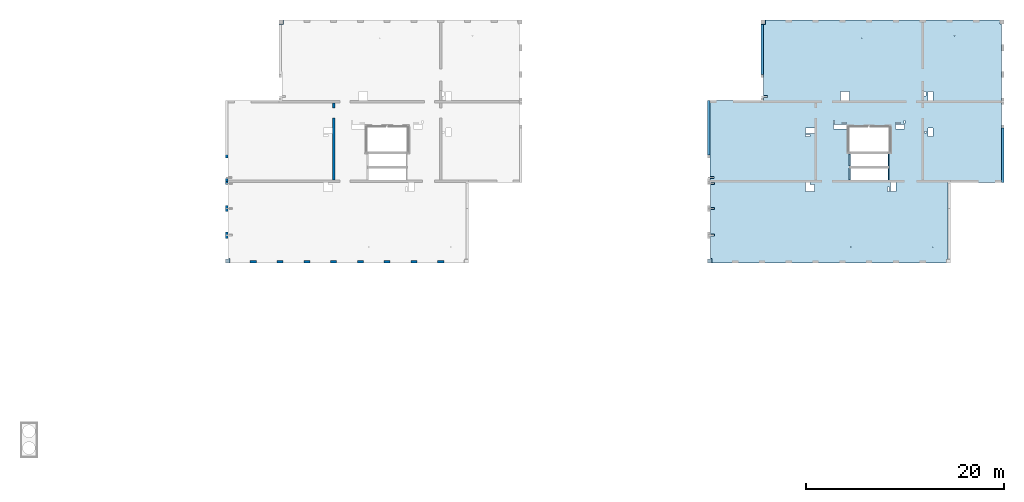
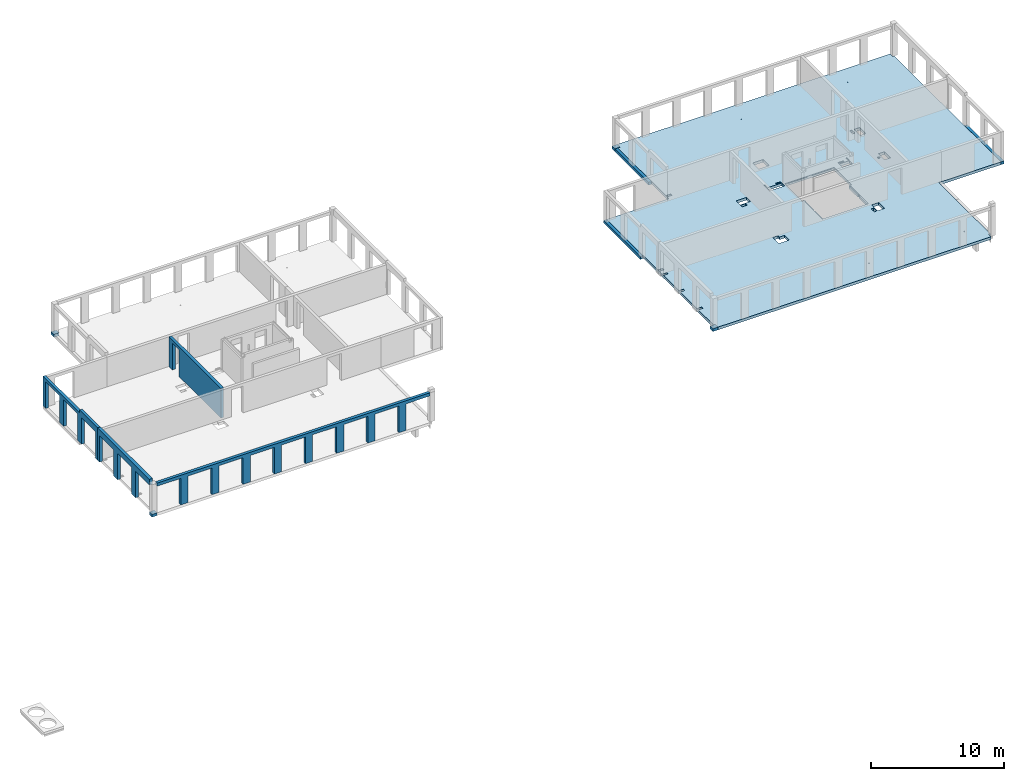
# One storey, part 3 of 12: 8 slabs, 4 walls, 50 openings.
"""IFC2X3 building model written with IfcOpenShell, lengths in millimetres."""

import ifcopenshell
import ifcopenshell.guid

model = None  # the IFC model being written
_history = None  # IfcOwnerHistory: only IFC2X3 demands one
_inside = {}  # id of a spatial element -> (the spatial element, [elements in it])
_under = {}  # id of a project, library or spatial element -> (it, [spatial elements below it])
_declared = {}  # id of a project -> (the project, [libraries it declares])
_typed = {}  # id of a type object -> (the type object, [elements of that type])
_made_of = {}  # id of a material, layer set ... -> (it, [elements and type objects made of it])


def new_model(schema):
    """Start an empty IFC model of exactly this schema.

    Asked for "IFC4X3", IfcOpenShell would pick the latest addendum, in which some entities
    have other attributes; the version numbers below select the first issue.
    IFC2X3 requires an IfcOwnerHistory on every rooted entity: one is made here for all.
    """
    global model, _history
    if schema == "IFC4X3":
        model = ifcopenshell.file(schema_version=(4, 3, 0, 0))
    else:
        model = ifcopenshell.file(schema=schema)
    _inside.clear()
    _under.clear()
    _declared.clear()
    _typed.clear()
    _made_of.clear()
    _history = None
    if model.schema == "IFC2X3":
        org = make("IfcOrganization", Name="unknown")
        user = make(
            "IfcPersonAndOrganization",
            ThePerson=make("IfcPerson", FamilyName="unknown"),
            TheOrganization=org,
        )
        app = make(
            "IfcApplication",
            ApplicationDeveloper=org,
            Version="unknown",
            ApplicationFullName="unknown",
            ApplicationIdentifier="unknown",
        )
        _history = make(
            "IfcOwnerHistory",
            OwningUser=user,
            OwningApplication=app,
            ChangeAction="ADDED",
            CreationDate=0,
        )
    return model


def make(cls, **values):
    """One entity of the class cls with the attributes given. An attribute that is None is left unset."""
    return model.create_entity(
        cls, **{name: value for name, value in values.items() if value is not None}
    )


def entity(cls, *values):
    """Any entity or typed value of the class cls, its attributes in the order of the schema. None: left unset."""
    e = model.create_entity(cls)
    for i, value in enumerate(values):
        if value is not None:
            e[i] = value
    return e


def rooted(cls, **values):
    """An entity with a GlobalId (a new one), such as an element, a storey or a relation."""
    return make(cls, GlobalId=ifcopenshell.guid.new(), OwnerHistory=_history, **values)


def si_unit(unit_type, name, prefix=None):
    """IfcSIUnit, for example si_unit("LENGTHUNIT", "METRE", prefix="MILLI")."""
    return make("IfcSIUnit", UnitType=unit_type, Prefix=prefix, Name=name)


def converted_unit(unit_type, name, factor, base, dimensions=None, offset=None):
    """IfcConversionBasedUnit, such as the inch: factor (a typed value) times the base unit."""
    return make(
        "IfcConversionBasedUnit"
        if offset is None
        else "IfcConversionBasedUnitWithOffset",
        ConversionOffset=offset,
        Dimensions=None
        if dimensions is None
        else entity("IfcDimensionalExponents", *dimensions),
        UnitType=unit_type,
        Name=name,
        ConversionFactor=make(
            "IfcMeasureWithUnit", ValueComponent=factor, UnitComponent=base
        ),
    )


def derived_unit(unit_type, elements):
    """IfcDerivedUnit: a product of units, each with its exponent."""
    return make(
        "IfcDerivedUnit",
        Elements=[
            make("IfcDerivedUnitElement", Unit=unit, Exponent=power)
            for unit, power in elements
        ],
        UnitType=unit_type,
    )


def assignment(units):
    """IfcUnitAssignment: the units of a project."""
    return None if units is None else make("IfcUnitAssignment", Units=units)


def point(xyz):
    """IfcCartesianPoint."""
    return None if xyz is None else make("IfcCartesianPoint", Coordinates=xyz)


def direction(xyz):
    """IfcDirection."""
    return None if xyz is None else make("IfcDirection", DirectionRatios=xyz)


def frame(location, z_axis=None, x_axis=None):
    """IfcAxis2Placement3D, a coordinate frame: its origin and axes. An axis left out is left unset."""
    return make(
        "IfcAxis2Placement3D",
        Location=point(location),
        Axis=direction(z_axis),
        RefDirection=direction(x_axis),
    )


def frame_2d(location, x_axis=None):
    """IfcAxis2Placement2D, a coordinate frame in the plane: its origin and x axis."""
    return make(
        "IfcAxis2Placement2D", Location=point(location), RefDirection=direction(x_axis)
    )


def origin():
    """The frame at (0, 0, 0) with its axes left unset."""
    return frame((0.0, 0.0, 0.0))


def origin_2d_with_axis():
    """The frame at (0, 0) in the plane with the x axis (1, 0) written out."""
    return frame_2d((0.0, 0.0), x_axis=(1.0, 0.0))


def place(relative_to, where):
    """IfcLocalPlacement: puts the frame where relative to a parent placement (None: the world)."""
    return make(
        "IfcLocalPlacement", PlacementRelTo=relative_to, RelativePlacement=where
    )


def context(
    kind, dimensions, precision=None, world=None, true_north=None, identifier=None
):
    """IfcGeometricRepresentationContext, for example the 3D "Model" context."""
    return make(
        "IfcGeometricRepresentationContext",
        ContextIdentifier=identifier,
        ContextType=kind,
        CoordinateSpaceDimension=dimensions,
        Precision=precision,
        WorldCoordinateSystem=world,
        TrueNorth=true_north,
    )


def subcontext(parent, identifier, kind, view, scale=None):
    """IfcGeometricRepresentationSubContext, for example "Body" below "Model"."""
    return make(
        "IfcGeometricRepresentationSubContext",
        ContextIdentifier=identifier,
        ContextType=kind,
        ParentContext=parent,
        TargetScale=scale,
        TargetView=view,
    )


def project(units=None, contexts=None):
    """IfcProject with its units and contexts."""
    return rooted(
        "IfcProject",
        Name="project",
        RepresentationContexts=contexts,
        UnitsInContext=assignment(units),
    )


def spatial(cls, under=None, at=None, **own):
    """A site, building, storey or space (cls), placed at a placement, below another one or the project."""
    s = rooted(cls, ObjectPlacement=at, **own)
    if under is not None:
        _under.setdefault(under.id(), (under, []))[1].append(s)
    return s


def polyline(points):
    """IfcPolyline through the points."""
    return make("IfcPolyline", Points=[point(p) for p in points])


def profile(cls, at=None, kind="AREA", **sizes):
    """A parametric profile (cls). Its sizes go by their IFC names, for example OverallWidth=200.0."""
    return make(cls, ProfileType=kind, Position=at, **sizes)


def rectangle(**sizes):
    """IfcRectangleProfileDef."""
    return profile("IfcRectangleProfileDef", **sizes)


def circle(**sizes):
    """IfcCircleProfileDef."""
    return profile("IfcCircleProfileDef", **sizes)


def outline(outer, holes=None, kind="AREA"):
    """IfcArbitraryClosedProfileDef: a profile drawn as a closed curve; with holes, ...WithVoids."""
    if holes is None:
        return make("IfcArbitraryClosedProfileDef", ProfileType=kind, OuterCurve=outer)
    return make(
        "IfcArbitraryProfileDefWithVoids",
        ProfileType=kind,
        OuterCurve=outer,
        InnerCurves=holes,
    )


def extrude(swept, where, along, depth):
    """IfcExtrudedAreaSolid: the profile swept, set in the frame where, extruded along a direction by depth."""
    return make(
        "IfcExtrudedAreaSolid",
        SweptArea=swept,
        Position=where,
        ExtrudedDirection=direction(along),
        Depth=depth,
    )


def shape(context_of_items, identifier, shape_type, items):
    """IfcShapeRepresentation: the items that make up one representation, for example the "Body"."""
    return make(
        "IfcShapeRepresentation",
        ContextOfItems=context_of_items,
        RepresentationIdentifier=identifier,
        RepresentationType=shape_type,
        Items=items,
    )


def material(Name=None, Category=None):
    """IfcMaterial."""
    return make("IfcMaterial", Name=Name, Category=Category)


def layer(
    of_material, thickness, ventilated=None, Name=None, Category=None, Priority=None
):
    """IfcMaterialLayer: one layer of a wall or slab, of a material (None: an air gap)."""
    return make(
        "IfcMaterialLayer",
        Material=of_material,
        LayerThickness=thickness,
        IsVentilated=ventilated,
        Name=Name,
        Category=Category,
        Priority=Priority,
    )


def layer_set(layers, Name=None):
    """IfcMaterialLayerSet."""
    return make("IfcMaterialLayerSet", MaterialLayers=layers, LayerSetName=Name)


def layer_usage(for_layer_set, set_direction, sense, offset, extent=None):
    """IfcMaterialLayerSetUsage: how a layer set lies in its element."""
    return make(
        "IfcMaterialLayerSetUsage",
        ForLayerSet=for_layer_set,
        LayerSetDirection=set_direction,
        DirectionSense=sense,
        OffsetFromReferenceLine=offset,
        ReferenceExtent=extent,
    )


def made_of(thing, what):
    """Note that an element or type object is made of a material, layer set ...; save() writes the relation."""
    if what is not None:
        _made_of.setdefault(what.id(), (what, []))[1].append(thing)
    return thing


def type_object(cls, material=None, **own):
    """A type object (cls), such as IfcWallType, which elements share."""
    return made_of(rooted(cls, **own), material)


def element(
    cls,
    number,
    at=None,
    inside=None,
    cuts=None,
    type_object=None,
    material=None,
    context=None,
    identifier="Body",
    shape_type=None,
    held_by="IfcProductDefinitionShape",
    body=None,
    shapes=None,
    **own,
):
    """One element of the class cls, such as IfcWall. Its Tag is "e" and its number.

    at: its placement. inside: the storey or other place that contains it. cuts: it is an
    opening in that element (IfcRelVoidsElement). A single representation is given by context,
    identifier, shape_type and body (its items); several are given by shapes. held_by: the class
    of the entity that holds the representations. save() writes the other relations.
    """
    e = rooted(cls, Tag="e%d" % number, ObjectPlacement=at, **own)
    if body is not None:
        shapes = [shape(context, identifier, shape_type, body)]
    if shapes is not None:
        e.Representation = make(held_by, Representations=shapes)
    if inside is not None:
        _inside.setdefault(inside.id(), (inside, []))[1].append(e)
    if cuts is not None:
        rooted(
            "IfcRelVoidsElement", RelatingBuildingElement=cuts, RelatedOpeningElement=e
        )
    if type_object is not None:
        _typed.setdefault(type_object.id(), (type_object, []))[1].append(e)
    return made_of(e, material)


def aggregate(whole, parts):
    """IfcRelAggregates: a whole, such as a stair, and the parts it consists of."""
    return rooted("IfcRelAggregates", RelatingObject=whole, RelatedObjects=parts)


def save(model, path):
    """Write the relations noted so far, then the file.

    IfcRelAggregates (storeys below a building ...), IfcRelContainedInSpatialStructure (elements
    in a storey), IfcRelDefinesByType, IfcRelAssociatesMaterial and IfcRelDeclares: one each for
    every whole, place, type object, material and project.
    """
    for whole, parts in _under.values():
        aggregate(whole, parts)
    for where, things in _inside.values():
        rooted(
            "IfcRelContainedInSpatialStructure",
            RelatedElements=things,
            RelatingStructure=where,
        )
    for kind, things in _typed.values():
        rooted("IfcRelDefinesByType", RelatedObjects=things, RelatingType=kind)
    for what, things in _made_of.values():
        rooted("IfcRelAssociatesMaterial", RelatedObjects=things, RelatingMaterial=what)
    for by, libraries in _declared.values():
        rooted("IfcRelDeclares", RelatingContext=by, RelatedDefinitions=libraries)
    model.write(path)


model = new_model("IFC2X3")

# Units and contexts
model_context = context("Model", 3, precision=0.01, world=origin(), true_north=direction((6.12303176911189e-17, 1.0)))
body_context = subcontext(model_context, "Body", "Model", "MODEL_VIEW")
ifc_project = project(units=[si_unit("LENGTHUNIT", "METRE", prefix="MILLI"), si_unit("AREAUNIT", "SQUARE_METRE"), si_unit("VOLUMEUNIT", "CUBIC_METRE"), converted_unit("PLANEANGLEUNIT", "DEGREE", entity("IfcRatioMeasure", 0.0174532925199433), si_unit("PLANEANGLEUNIT", "RADIAN"), dimensions=[0, 0, 0, 0, 0, 0, 0]), si_unit("MASSUNIT", "GRAM", prefix="KILO"), derived_unit("MASSDENSITYUNIT", [(si_unit("MASSUNIT", "GRAM", prefix="KILO"), 1), (si_unit("LENGTHUNIT", "METRE"), -3)]), si_unit("TIMEUNIT", "SECOND"), si_unit("FREQUENCYUNIT", "HERTZ"), si_unit("THERMODYNAMICTEMPERATUREUNIT", "DEGREE_CELSIUS"), derived_unit("THERMALTRANSMITTANCEUNIT", [(si_unit("MASSUNIT", "GRAM", prefix="KILO"), 1), (si_unit("THERMODYNAMICTEMPERATUREUNIT", "KELVIN"), -1), (si_unit("TIMEUNIT", "SECOND"), -3)]), derived_unit("VOLUMETRICFLOWRATEUNIT", [(si_unit("LENGTHUNIT", "METRE"), 3), (si_unit("TIMEUNIT", "SECOND"), -1)]), si_unit("ELECTRICCURRENTUNIT", "AMPERE"), si_unit("ELECTRICVOLTAGEUNIT", "VOLT"), si_unit("POWERUNIT", "WATT"), si_unit("FORCEUNIT", "NEWTON", prefix="KILO"), si_unit("ILLUMINANCEUNIT", "LUX"), si_unit("LUMINOUSFLUXUNIT", "LUMEN"), si_unit("LUMINOUSINTENSITYUNIT", "CANDELA"), derived_unit("USERDEFINED", [(si_unit("MASSUNIT", "GRAM", prefix="KILO"), -1), (si_unit("LENGTHUNIT", "METRE"), -2), (si_unit("TIMEUNIT", "SECOND"), 3), (si_unit("LUMINOUSFLUXUNIT", "LUMEN"), 1)]), derived_unit("LINEARVELOCITYUNIT", [(si_unit("LENGTHUNIT", "METRE"), 1), (si_unit("TIMEUNIT", "SECOND"), -1)]), si_unit("PRESSUREUNIT", "PASCAL"), derived_unit("USERDEFINED", [(si_unit("LENGTHUNIT", "METRE"), -2), (si_unit("MASSUNIT", "GRAM", prefix="KILO"), 1), (si_unit("TIMEUNIT", "SECOND"), -2)])], contexts=[model_context])

# Site, building, storey
site_placement = place(None, origin())
site = spatial("IfcSite", under=ifc_project, at=site_placement, Name="Default", CompositionType="ELEMENT")
building_placement = place(site_placement, origin())
building = spatial("IfcBuilding", under=site, at=building_placement, Name="niet gebruiken", CompositionType="ELEMENT")
storey_placement = place(building_placement, frame((0.0, 0.0, 18540.0)))
storey = spatial("IfcBuildingStorey", under=building, at=storey_placement, Name="06 zesde verdieping", CompositionType="ELEMENT", Elevation=18540.0)

# Slab, openings
ifc_material_1 = material(Name="NLRS_f2_beton ihwg")
ifc_layer_1 = layer(ifc_material_1, 250.0)
ifc_layer_set_1 = layer_set([ifc_layer_1], Name="Floor:NLRS_23.21_FL_beton ihwg d=250_gen")
ifc_layer_usage_1 = layer_usage(ifc_layer_set_1, "AXIS3", "POSITIVE", 0.0)
slab_1_placement = place(storey_placement, frame((75500.0, 28756.0, -340.0)))
slab_1 = element("IfcSlab", 1, at=slab_1_placement, inside=storey, material=ifc_layer_usage_1, Name="Floor:NLRS_23.21_FL_beton ihwg d=250_gen", ObjectType="Floor:NLRS_23.21_FL_beton ihwg d=250_gen", PredefinedType="FLOOR", context=body_context, shape_type="SweptSolid", body=[
    extrude(outline(polyline([(8994.99996701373, 12250.0), (-14665.0, 12250.0), (-14665.0, 11840.0), (-14805.0, 11840.0), (-14805.0, 4060.0), (-14825.0, 4060.0), (-14825.0, -4150.0), (-9425.0, -4150.0), (-9425.0, -11890.0), (-9265.00003298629, -11890.0), (-9265.00003298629, -12250.0), (14395.0, -12250.0), (14395.0, -11820.0), (14535.0, -11820.0), (14535.0, -4060.0), (14555.0, -4060.0), (14555.0, -1350.0), (14825.0, -1350.0), (14825.0, 4150.0), (9155.0, 4150.0), (9155.0, 7060.0), (9175.0, 7060.0), (9175.0, 11820.0), (8994.99996701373, 11820.0), (8994.99996701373, 12250.0)])), frame((14825.0, 12250.0, 250.0), z_axis=(0.0, 0.0, -1.0), x_axis=(-1.0, 0.0, 0.0)), (0.0, 0.0, 1.0), 249.999999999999),
])
opening_1_placement = place(storey_placement, frame((75500.0, 28756.0, -340.0)))
element("IfcOpeningElement", 2, at=opening_1_placement, cuts=slab_1, ObjectType="Opening", context=body_context, shape_type="SweptSolid", body=[
    extrude(circle(Radius=37.5, at=frame_2d((-7875.0, -10650.0), x_axis=(1.0, 0.0))), frame((14825.0, 12250.0, 250.0), z_axis=(0.0, 0.0, -1.0), x_axis=(-1.0, 0.0, 0.0)), (0.0, 0.0, 1.0), 249.999999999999),
])
opening_2_placement = place(storey_placement, frame((75500.0, 28756.0, -340.0)))
element("IfcOpeningElement", 3, at=opening_2_placement, cuts=slab_1, ObjectType="Opening", context=body_context, shape_type="SweptSolid", body=[
    extrude(circle(Radius=37.5, at=frame_2d((-10075.0, 10650.0), x_axis=(1.0, 0.0))), frame((14825.0, 12250.0, 250.0), z_axis=(0.0, 0.0, -1.0), x_axis=(-1.0, 0.0, 0.0)), (0.0, 0.0, 1.0), 249.999999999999),
])
opening_3_placement = place(storey_placement, frame((75500.0, 28756.0, -340.0)))
element("IfcOpeningElement", 4, at=opening_3_placement, cuts=slab_1, ObjectType="Opening", context=body_context, shape_type="SweptSolid", body=[
    extrude(circle(Radius=37.5, at=frame_2d((-725.0, 10400.0), x_axis=(1.0, 0.0))), frame((14825.0, 12250.0, 250.0), z_axis=(0.0, 0.0, -1.0), x_axis=(-1.0, 0.0, 0.0)), (0.0, 0.0, 1.0), 249.999999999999),
])
opening_4_placement = place(storey_placement, frame((75500.0, 28756.0, -340.0)))
element("IfcOpeningElement", 5, at=opening_4_placement, cuts=slab_1, ObjectType="Opening", context=body_context, shape_type="SweptSolid", body=[
    extrude(circle(Radius=37.5, at=frame_2d((375.0, -10650.0), x_axis=(1.0, 0.0))), frame((14825.0, 12250.0, 250.0), z_axis=(0.0, 0.0, -1.0), x_axis=(-1.0, 0.0, 0.0)), (0.0, 0.0, 1.0), 249.999999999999),
])
opening_5_placement = place(slab_1_placement, origin())
element("IfcOpeningElement", 6, at=opening_5_placement, cuts=slab_1, ObjectType="Opening", context=body_context, shape_type="SweptSolid", body=[
    extrude(rectangle(XDim=109.999999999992, YDim=1220.0, at=origin_2d_with_axis()), frame((14344.9999671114, 10380.0, 210.0)), (0.0, 0.0, 1.0), 39.9999999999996),
])
opening_6_placement = place(slab_1_placement, origin())
element("IfcOpeningElement", 7, at=opening_6_placement, cuts=slab_1, ObjectType="Opening", context=body_context, shape_type="SweptSolid", body=[
    extrude(rectangle(XDim=109.999999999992, YDim=1220.0, at=origin_2d_with_axis()), frame((18255.0, 10380.0, 210.0)), (0.0, 0.0, 1.0), 39.9999999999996),
])
opening_7_placement = place(slab_1_placement, origin())
element("IfcOpeningElement", 8, at=opening_7_placement, cuts=slab_1, ObjectType="Opening", context=body_context, shape_type="SweptSolid", body=[
    extrude(rectangle(XDim=109.999999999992, YDim=1220.0, at=origin_2d_with_axis()), frame((18255.0, 8960.0, 210.0)), (0.0, 0.0, 1.0), 39.9999999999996),
])
opening_8_placement = place(slab_1_placement, origin())
element("IfcOpeningElement", 9, at=opening_8_placement, cuts=slab_1, ObjectType="Opening", context=body_context, shape_type="SweptSolid", body=[
    extrude(rectangle(XDim=109.999999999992, YDim=1220.0, at=origin_2d_with_axis()), frame((14344.9997832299, 8960.0, 210.0)), (0.0, 0.0, 1.0), 39.9999999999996),
])
opening_9_placement = place(slab_1_placement, origin())
element("IfcOpeningElement", 10, at=opening_9_placement, cuts=slab_1, ObjectType="Opening", context=body_context, shape_type="SweptSolid", body=[
    extrude(rectangle(XDim=200.000000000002, YDim=400.000000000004, at=origin_2d_with_axis()), frame((490.0, 2800.0, 220.0), z_axis=(0.0, 0.0, 1.0), x_axis=(0.0, -1.0, 0.0)), (0.0, 0.0, 1.0), 29.9999999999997),
])
opening_10_placement = place(slab_1_placement, origin())
element("IfcOpeningElement", 11, at=opening_10_placement, cuts=slab_1, ObjectType="Opening", context=body_context, shape_type="SweptSolid", body=[
    extrude(rectangle(XDim=200.000000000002, YDim=400.000000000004, at=origin_2d_with_axis()), frame((490.0, 5500.0, 220.0), z_axis=(0.0, 0.0, 1.0), x_axis=(0.0, -1.0, 0.0)), (0.0, 0.0, 1.0), 29.9999999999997),
])
opening_11_placement = place(slab_1_placement, origin())
element("IfcOpeningElement", 12, at=opening_11_placement, cuts=slab_1, ObjectType="Opening", context=body_context, shape_type="SweptSolid", body=[
    extrude(rectangle(XDim=200.000000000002, YDim=400.000000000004, at=origin_2d_with_axis()), frame((490.0, 8000.0, 220.0), z_axis=(0.0, 0.0, 1.0), x_axis=(0.0, -1.0, 0.0)), (0.0, 0.0, 1.0), 29.9999999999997),
])
opening_12_placement = place(slab_1_placement, origin())
element("IfcOpeningElement", 13, at=opening_12_placement, cuts=slab_1, ObjectType="Opening", context=body_context, shape_type="SweptSolid", body=[
    extrude(rectangle(XDim=400.000000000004, YDim=200.000000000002, at=origin_2d_with_axis()), frame((470.0, 8630.0, 220.0)), (0.0, 0.0, 1.0), 29.9999999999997),
])
opening_13_placement = place(slab_1_placement, origin())
element("IfcOpeningElement", 14, at=opening_13_placement, cuts=slab_1, ObjectType="Opening", context=body_context, shape_type="SweptSolid", body=[
    extrude(rectangle(XDim=399.999999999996, YDim=199.999999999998, at=origin_2d_with_axis()), frame((5870.0, 16765.0, 220.0)), (0.0, 0.0, 1.0), 29.9999999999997),
])
opening_14_placement = place(slab_1_placement, origin())
element("IfcOpeningElement", 15, at=opening_14_placement, cuts=slab_1, ObjectType="Opening", context=body_context, shape_type="SweptSolid", body=[
    extrude(rectangle(XDim=900.000000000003, YDim=700.000000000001, at=origin_2d_with_axis()), frame((10325.0, 7550.0, 0.0), z_axis=(0.0, 0.0, 1.0), x_axis=(-1.0, 0.0, 0.0)), (0.0, 0.0, 1.0), 249.999999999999),
])
opening_15_placement = place(slab_1_placement, origin())
element("IfcOpeningElement", 16, at=opening_15_placement, cuts=slab_1, ObjectType="Opening", context=body_context, shape_type="SweptSolid", body=[
    extrude(rectangle(XDim=200.000000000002, YDim=450.000000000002, at=origin_2d_with_axis()), frame((10100.0, 8000.0, 0.0), z_axis=(0.0, 0.0, 1.0), x_axis=(0.0, -1.0, 0.0)), (0.0, 0.0, 1.0), 249.999999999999),
])
opening_16_placement = place(slab_1_placement, origin())
element("IfcOpeningElement", 17, at=opening_16_placement, cuts=slab_1, ObjectType="Opening", context=body_context, shape_type="SweptSolid", body=[
    extrude(rectangle(XDim=450.000000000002, YDim=900.000000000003, at=origin_2d_with_axis()), frame((19430.0, 13720.0, 0.0), z_axis=(0.0, 0.0, 1.0), x_axis=(0.0, -1.0, 0.0)), (0.0, 0.0, 1.0), 249.999999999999),
])
opening_17_placement = place(slab_1_placement, origin())
element("IfcOpeningElement", 18, at=opening_17_placement, cuts=slab_1, ObjectType="Opening", context=body_context, shape_type="SweptSolid", body=[
    extrude(rectangle(XDim=900.000000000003, YDim=900.000000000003, at=origin_2d_with_axis()), frame((13885.0, 16850.0, 0.0), z_axis=(0.0, 0.0, 1.0), x_axis=(-1.0, 0.0, 0.0)), (0.0, 0.0, 1.0), 249.999999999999),
])
opening_18_placement = place(slab_1_placement, origin())
element("IfcOpeningElement", 19, at=opening_18_placement, cuts=slab_1, ObjectType="Opening", context=body_context, shape_type="SweptSolid", body=[
    extrude(rectangle(XDim=900.000000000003, YDim=600.000000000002, at=origin_2d_with_axis()), frame((10325.0, 13330.0, 0.0), z_axis=(0.0, 0.0, 1.0), x_axis=(-1.0, 0.0, 0.0)), (0.0, 0.0, 1.0), 249.999999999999),
])
opening_19_placement = place(slab_1_placement, origin())
element("IfcOpeningElement", 20, at=opening_19_placement, cuts=slab_1, ObjectType="Opening", context=body_context, shape_type="SweptSolid", body=[
    extrude(rectangle(XDim=900.000000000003, YDim=500.000000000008, at=origin_2d_with_axis()), frame((22475.0, 16850.0, 0.0), z_axis=(0.0, 0.0, 1.0), x_axis=(0.0, 1.0, 0.0)), (0.0, 0.0, 1.0), 249.999999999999),
])
opening_20_placement = place(slab_1_placement, origin())
element("IfcOpeningElement", 21, at=opening_20_placement, cuts=slab_1, ObjectType="Opening", context=body_context, shape_type="SweptSolid", body=[
    extrude(rectangle(XDim=899.999999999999, YDim=600.000000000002, at=origin_2d_with_axis()), frame((18729.9818996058, 7650.0, 0.0), z_axis=(0.0, 0.0, 1.0), x_axis=(0.0, 1.0, 0.0)), (0.0, 0.0, 1.0), 249.999999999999),
])
opening_21_placement = place(slab_1_placement, origin())
element("IfcOpeningElement", 22, at=opening_21_placement, cuts=slab_1, ObjectType="Opening", context=body_context, shape_type="SweptSolid", body=[
    extrude(rectangle(XDim=1760.0, YDim=23.0000000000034, at=origin_2d_with_axis()), frame((17354.999849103, 13751.5, 180.0)), (0.0, 0.0, 1.0), 39.9999999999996),
])
opening_22_placement = place(slab_1_placement, origin())
element("IfcOpeningElement", 23, at=opening_22_placement, cuts=slab_1, ObjectType="Opening", context=body_context, shape_type="SweptSolid", body=[
    extrude(rectangle(XDim=1760.00000000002, YDim=23.0000000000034, at=origin_2d_with_axis()), frame((15244.9998491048, 13751.5, 180.0)), (0.0, 0.0, 1.0), 39.9999999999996),
])
opening_23_placement = place(slab_1_placement, origin())
element("IfcOpeningElement", 24, at=opening_23_placement, cuts=slab_1, ObjectType="Opening", context=body_context, shape_type="SweptSolid", body=[
    extrude(rectangle(XDim=100.000000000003, YDim=489.999999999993, at=origin_2d_with_axis()), frame((19225.0, 14090.0, 0.0), z_axis=(0.0, 0.0, 1.0), x_axis=(0.0, -1.0, 0.0)), (0.0, 0.0, 1.0), 249.999999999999),
])
opening_24_placement = place(slab_1_placement, origin())
element("IfcOpeningElement", 25, at=opening_24_placement, cuts=slab_1, ObjectType="Opening", context=body_context, shape_type="SweptSolid", body=[
    extrude(rectangle(XDim=99.9999999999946, YDim=340.000000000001, at=origin_2d_with_axis()), frame((19865.0, 14210.0, 0.0), z_axis=(0.0, 0.0, 1.0), x_axis=(-1.0, 0.0, 0.0)), (0.0, 0.0, 1.0), 249.999999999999),
])
opening_25_placement = place(slab_1_placement, origin())
element("IfcOpeningElement", 26, at=opening_25_placement, cuts=slab_1, ObjectType="Opening", context=body_context, shape_type="SweptSolid", body=[
    extrude(rectangle(XDim=100.000000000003, YDim=440.000000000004, at=origin_2d_with_axis()), frame((13805.0, 14090.0, 0.0), z_axis=(0.0, 0.0, 1.0), x_axis=(0.0, -1.0, 0.0)), (0.0, 0.0, 1.0), 249.999999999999),
])
opening_26_placement = place(slab_1_placement, origin())
element("IfcOpeningElement", 27, at=opening_26_placement, cuts=slab_1, ObjectType="Opening", context=body_context, shape_type="SweptSolid", body=[
    extrude(rectangle(XDim=99.9999999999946, YDim=340.000000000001, at=origin_2d_with_axis()), frame((12755.0, 14210.0, 0.0), z_axis=(0.0, 0.0, 1.0), x_axis=(-1.0, 0.0, 0.0)), (0.0, 0.0, 1.0), 249.999999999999),
])
opening_27_placement = place(slab_1_placement, origin())
element("IfcOpeningElement", 28, at=opening_27_placement, cuts=slab_1, ObjectType="Opening", context=body_context, shape_type="SweptSolid", body=[
    extrude(rectangle(XDim=220.000000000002, YDim=450.000000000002, at=origin_2d_with_axis()), frame((21935.0, 17075.0, 0.0), z_axis=(0.0, 0.0, 1.0), x_axis=(-1.0, 0.0, 0.0)), (0.0, 0.0, 1.0), 249.999999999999),
])
opening_28_placement = place(slab_1_placement, origin())
element("IfcOpeningElement", 29, at=opening_28_placement, cuts=slab_1, ObjectType="Opening", context=body_context, shape_type="SweptSolid", body=[
    extrude(rectangle(XDim=230.0, YDim=450.000000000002, at=origin_2d_with_axis()), frame((10100.0000865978, 12845.0002270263, 0.0), z_axis=(0.0, 0.0, 1.0), x_axis=(0.0, -1.0, 0.0)), (0.0, 0.0, 1.0), 249.999999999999),
])
opening_29_placement = place(slab_1_placement, origin())
element("IfcOpeningElement", 30, at=opening_29_placement, cuts=slab_1, ObjectType="Opening", context=body_context, shape_type="SweptSolid", body=[
    extrude(rectangle(XDim=220.000000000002, YDim=450.000000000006, at=origin_2d_with_axis()), frame((18240.0, 7425.0, 0.0)), (0.0, 0.0, 1.0), 249.999999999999),
])
opening_30_placement = place(slab_1_placement, origin())
element("IfcOpeningElement", 31, at=opening_30_placement, cuts=slab_1, ObjectType="Opening", context=body_context, shape_type="SweptSolid", body=[
    extrude(rectangle(XDim=900.000000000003, YDim=500.000000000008, at=origin_2d_with_axis()), frame((22475.0, 13180.0, 0.0), z_axis=(0.0, 0.0, 1.0), x_axis=(0.0, 1.0, 0.0)), (0.0, 0.0, 1.0), 249.999999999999),
])
opening_31_placement = place(slab_1_placement, origin())
element("IfcOpeningElement", 32, at=opening_31_placement, cuts=slab_1, ObjectType="Opening", context=body_context, shape_type="SweptSolid", body=[
    extrude(rectangle(XDim=440.000000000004, YDim=1320.00000000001, at=origin_2d_with_axis()), frame((13365.0, 13720.0, 0.0), z_axis=(0.0, 0.0, 1.0), x_axis=(0.0, -1.0, 0.0)), (0.0, 0.0, 1.0), 249.999999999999),
])
opening_32_placement = place(slab_1_placement, origin())
element("IfcOpeningElement", 33, at=opening_32_placement, cuts=slab_1, ObjectType="Opening", context=body_context, shape_type="SweptSolid", body=[
    extrude(circle(Radius=100.0, at=origin_2d_with_axis()), frame((21975.0, 13180.0, 0.0), z_axis=(0.0, 0.0, 1.0), x_axis=(-1.0, 0.0, 0.0)), (0.0, 0.0, 1.0), 249.999999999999),
])
opening_33_placement = place(slab_1_placement, frame((16300.0, 10378.75, 250.0)))
element("IfcOpeningElement", 34, at=opening_33_placement, cuts=slab_1, Name="Floor:NLRS_23.21_FL_beton ihwg d=250_gen:2", ObjectType="Opening", context=body_context, shape_type="SweptSolid", body=[
    extrude(outline(polyline([(-3361.25, -2135.00001644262), (-751.250000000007, -2135.00001644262), (-751.250000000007, -1899.99998355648), (608.750000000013, -1899.99998355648), (608.750000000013, -2000.00001644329), (808.750000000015, -2000.00001644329), (808.750000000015, -1899.99998355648), (2028.75000000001, -1899.99998355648), (2028.75000000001, 1900.00001644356), (808.750000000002, 1900.00001644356), (808.750000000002, 1999.9999835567), (608.75, 1999.9999835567), (608.75, 1900.00001644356), (-751.250000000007, 1900.00001644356), (-751.250000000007, 2134.99998355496), (-3361.25, 2134.99998355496), (-3361.25, -2135.00001644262)])), frame((0.0, 0.0, 0.0), z_axis=(0.0, 0.0, -1.0), x_axis=(0.0, -1.0, 0.0)), (0.0, 0.0, 1.0), 249.999999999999),
])

# Slabs
ifc_layer_usage_2 = layer_usage(ifc_layer_set_1, "AXIS3", "POSITIVE", 0.0)
slab_2_placement = place(storey_placement, origin())
element("IfcSlab", 35, at=slab_2_placement, inside=storey, material=ifc_layer_usage_2, Name="Floor:NLRS_23.21_FL_beton ihwg d=250_gen", ObjectType="Floor:NLRS_23.21_FL_beton ihwg d=250_gen", PredefinedType="FLOOR", context=body_context, shape_type="SweptSolid", body=[
    extrude(rectangle(XDim=5089.99999999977, YDim=250.000000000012, at=frame_2d((4.32009983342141e-12, 0.0), x_axis=(1.0, 0.0))), frame((81025.0, 50301.0, -90.0), z_axis=(0.0, 0.0, -1.0), x_axis=(0.0, 1.0, 0.0)), (0.0, 0.0, 1.0), 249.999999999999),
])
ifc_layer_usage_3 = layer_usage(ifc_layer_set_1, "AXIS3", "POSITIVE", 0.0)
slab_3_placement = place(storey_placement, origin())
element("IfcSlab", 36, at=slab_3_placement, inside=storey, material=ifc_layer_usage_3, Name="Floor:NLRS_23.21_FL_beton ihwg d=250_gen", ObjectType="Floor:NLRS_23.21_FL_beton ihwg d=250_gen", PredefinedType="FLOOR", context=body_context, shape_type="SweptSolid", body=[
    extrude(rectangle(XDim=5499.99999999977, YDim=250.000000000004, at=frame_2d((0.0, 4.33431068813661e-12), x_axis=(1.0, 0.0))), frame((75625.0, 42406.0, -90.0), z_axis=(0.0, 0.0, -1.0), x_axis=(0.0, 1.0, 0.0)), (0.0, 0.0, 1.0), 249.999999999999),
])
ifc_layer_usage_4 = layer_usage(ifc_layer_set_1, "AXIS3", "POSITIVE", 0.0)
slab_4_placement = place(storey_placement, origin())
element("IfcSlab", 37, at=slab_4_placement, inside=storey, material=ifc_layer_usage_4, Name="Floor:NLRS_23.21_FL_beton ihwg d=250_gen", ObjectType="Floor:NLRS_23.21_FL_beton ihwg d=250_gen", PredefinedType="FLOOR", context=body_context, shape_type="SweptSolid", body=[
    extrude(rectangle(XDim=5500.00000000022, YDim=250.000000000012, at=origin_2d_with_axis()), frame((105275.0, 39606.0, -90.0), z_axis=(0.0, 0.0, -1.0), x_axis=(0.0, 1.0, 0.0)), (0.0, 0.0, 1.0), 249.999999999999),
])
ifc_layer_usage_5 = layer_usage(ifc_layer_set_1, "AXIS3", "POSITIVE", 0.0)
slab_5_placement = place(storey_placement, origin())
element("IfcSlab", 38, at=slab_5_placement, inside=storey, material=ifc_layer_usage_5, Name="Floor:NLRS_23.21_FL_beton ihwg d=250_gen", ObjectType="Floor:NLRS_23.21_FL_beton ihwg d=250_gen", PredefinedType="FLOOR", context=body_context, shape_type="SweptSolid", body=[
    extrude(outline(polyline([(-280.0, -240.0), (130.0, -240.0), (130.0, 50.0), (150.0, 50.0), (150.0, 190.0), (-280.0, 190.0), (-280.0, -240.0)])), frame((27140.0, 29036.0, -90.0), z_axis=(0.0, 0.0, -1.0), x_axis=(0.0, 1.0, 0.0)), (0.0, 0.0, 1.0), 249.999999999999),
])
ifc_layer_usage_6 = layer_usage(ifc_layer_set_1, "AXIS3", "POSITIVE", 0.0)
slab_6_placement = place(storey_placement, origin())
element("IfcSlab", 39, at=slab_6_placement, inside=storey, material=ifc_layer_usage_6, Name="Floor:NLRS_23.21_FL_beton ihwg d=250_gen", ObjectType="Floor:NLRS_23.21_FL_beton ihwg d=250_gen", PredefinedType="FLOOR", context=body_context, shape_type="SweptSolid", body=[
    extrude(outline(polyline([(-280.0, -240.0), (130.0, -240.0), (130.0, 50.0), (150.0, 50.0), (150.0, 190.0), (-280.0, 190.0), (-280.0, -240.0)])), frame((75740.0, 29036.0, -90.0), z_axis=(0.0, 0.0, -1.0), x_axis=(0.0, 1.0, 0.0)), (0.0, 0.0, 1.0), 249.999999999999),
])
ifc_layer_usage_7 = layer_usage(ifc_layer_set_1, "AXIS3", "POSITIVE", 0.0)
slab_7_placement = place(storey_placement, origin())
element("IfcSlab", 40, at=slab_7_placement, inside=storey, material=ifc_layer_usage_7, Name="Floor:NLRS_23.21_FL_beton ihwg d=250_gen", ObjectType="Floor:NLRS_23.21_FL_beton ihwg d=250_gen", PredefinedType="FLOOR", context=body_context, shape_type="SweptSolid", body=[
    extrude(rectangle(XDim=430.000000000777, YDim=430.000032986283, at=frame_2d((-4.33431068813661e-12, 2.1600499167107e-12), x_axis=(1.0, 0.0))), frame((32515.0, 53041.0, -90.0), z_axis=(0.0, 0.0, -1.0), x_axis=(0.0, 1.0, 0.0)), (0.0, 0.0, 1.0), 249.999999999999),
])
ifc_layer_usage_8 = layer_usage(ifc_layer_set_1, "AXIS3", "POSITIVE", 0.0)
slab_8_placement = place(storey_placement, origin())
element("IfcSlab", 41, at=slab_8_placement, inside=storey, material=ifc_layer_usage_8, Name="Floor:NLRS_23.21_FL_beton ihwg d=250_gen", ObjectType="Floor:NLRS_23.21_FL_beton ihwg d=250_gen", PredefinedType="FLOOR", context=body_context, shape_type="SweptSolid", body=[
    extrude(rectangle(XDim=430.000000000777, YDim=430.000032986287, at=frame_2d((4.33431068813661e-12, 0.0), x_axis=(1.0, 0.0))), frame((81115.0, 53041.0, -90.0), z_axis=(0.0, 0.0, -1.0), x_axis=(0.0, 1.0, 0.0)), (0.0, 0.0, 1.0), 249.999999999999),
])

# Wall, opening
ifc_layer_2 = layer(ifc_material_1, 250.0)
ifc_layer_set_2 = layer_set([ifc_layer_2], Name="Basic Wall:NLRS_22.21_WA_beton ihwg d=250_gen")
ifc_layer_usage_9 = layer_usage(ifc_layer_set_2, "AXIS2", "NEGATIVE", 125.0)
wall_type_1 = type_object("IfcWallType", Name="Basic Wall:NLRS_22.21_WA_beton ihwg d=250_gen", PredefinedType="STANDARD", material=ifc_layer_set_2)
wall_1_placement = place(storey_placement, frame((37800.0, 44906.0, -90.0), z_axis=(0.0, 0.0, 1.0), x_axis=(0.0, -1.0, 0.0)))
wall_1 = element("IfcWallStandardCase", 42, at=wall_1_placement, inside=storey, type_object=wall_type_1, material=ifc_layer_usage_9, Name="Basic Wall:NLRS_22.21_WA_beton ihwg d=250_gen", ObjectType="Basic Wall:NLRS_22.21_WA_beton ihwg d=250_gen", context=body_context, shape_type="SweptSolid", body=[
    extrude(rectangle(XDim=7799.99999999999, YDim=250.000000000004, at=frame_2d((3900.0, 0.0), x_axis=(-1.0, 0.0))), origin(), (0.0, 0.0, 1.0), 2719.99999999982),
])
opening_34_placement = place(wall_1_placement, origin())
element("IfcOpeningElement", 43, at=opening_34_placement, cuts=wall_1, Name="Basic Wall:NLRS_22.21_WA_beton ihwg d=250_gen", ObjectType="Opening", context=body_context, shape_type="SweptSolid", body=[
    extrude(rectangle(XDim=2470.0, YDim=1006.0, at=origin_2d_with_axis()), frame((1027.0, -1649.0, 1235.0), z_axis=(0.0, 1.0, 0.0), x_axis=(0.0, 0.0, 1.0)), (0.0, 0.0, 1.0), 3048.0),
])

# Wall, openings
ifc_material_2 = material(Name="NLRS_f2_beton prefab")
ifc_layer_3 = layer(ifc_material_2, 250.0)
ifc_layer_set_3 = layer_set([ifc_layer_3], Name="Basic Wall:NLRS_21.21_WA_beton prefab d=250_gen")
ifc_layer_usage_10 = layer_usage(ifc_layer_set_3, "AXIS2", "NEGATIVE", 125.0)
wall_type_2 = type_object("IfcWallType", Name="Basic Wall:NLRS_21.21_WA_beton prefab d=250_gen", PredefinedType="STANDARD", material=ifc_layer_set_3)
wall_2_placement = place(storey_placement, frame((27025.0, 45156.0, -70.0), z_axis=(0.0, 0.0, 1.0), x_axis=(0.0, -1.0, 0.0)))
wall_2 = element("IfcWallStandardCase", 44, at=wall_2_placement, inside=storey, type_object=wall_type_2, material=ifc_layer_usage_10, Name="Basic Wall:NLRS_21.21_WA_beton prefab d=250_gen", ObjectType="Basic Wall:NLRS_21.21_WA_beton prefab d=250_gen", context=body_context, shape_type="SweptSolid", body=[
    extrude(rectangle(XDim=8189.99999999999, YDim=250.000000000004, at=frame_2d((4095.0, 0.0), x_axis=(-1.0, 0.0))), origin(), (0.0, 0.0, 1.0), 2949.99999999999),
])
opening_35_placement = place(wall_2_placement, origin())
element("IfcOpeningElement", 45, at=opening_35_placement, cuts=wall_2, Name="Basic Wall:NLRS_21.21_WA_beton prefab d=250_gen", ObjectType="Opening", context=body_context, shape_type="SweptSolid", body=[
    extrude(rectangle(XDim=2420.0, YDim=2080.0, at=frame_2d((0.0, 2.1600499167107e-12), x_axis=(0.0, 1.0))), frame((1450.0, -1399.0, 1210.0), z_axis=(0.0, 1.0, 0.0), x_axis=(-1.0, 0.0, 0.0)), (0.0, 0.0, 1.0), 3048.0),
])
opening_36_placement = place(wall_2_placement, origin())
element("IfcOpeningElement", 46, at=opening_36_placement, cuts=wall_2, Name="Basic Wall:NLRS_21.21_WA_beton prefab d=250_gen", ObjectType="Opening", context=body_context, shape_type="SweptSolid", body=[
    extrude(rectangle(XDim=2420.0, YDim=2080.0, at=frame_2d((0.0, -2.1600499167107e-12), x_axis=(0.0, 1.0))), frame((4150.0, -1399.0, 1210.0), z_axis=(0.0, 1.0, 0.0), x_axis=(-1.0, 0.0, 0.0)), (0.0, 0.0, 1.0), 3048.0),
])
opening_37_placement = place(wall_2_placement, origin())
element("IfcOpeningElement", 47, at=opening_37_placement, cuts=wall_2, Name="Basic Wall:NLRS_21.21_WA_beton prefab d=250_gen", ObjectType="Opening", context=body_context, shape_type="SweptSolid", body=[
    extrude(rectangle(XDim=2420.0, YDim=2080.0, at=frame_2d((0.0, 2.1600499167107e-12), x_axis=(0.0, 1.0))), frame((6850.0, -1399.0, 1210.0), z_axis=(0.0, 1.0, 0.0), x_axis=(-1.0, 0.0, 0.0)), (0.0, 0.0, 1.0), 3048.0),
])
opening_38_placement = place(wall_2_placement, origin())
element("IfcOpeningElement", 48, at=opening_38_placement, cuts=wall_2, Name="Basic Wall:NLRS_21.21_WA_beton prefab d=250_gen", ObjectType="Opening", context=body_context, shape_type="SweptSolid", body=[
    extrude(rectangle(XDim=250.000000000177, YDim=5499.99999999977, at=frame_2d((0.0, 0.0), x_axis=(0.0, 1.0))), frame((2750.0, 125.0, 2825.0), z_axis=(0.0, -1.0, 0.0), x_axis=(-1.0, 0.0, 0.0)), (0.0, 0.0, 1.0), 250.0),
])

ifc_layer_4 = layer(ifc_material_1, 250.0)
ifc_layer_set_4 = layer_set([ifc_layer_4], Name="Basic Wall:NLRS_21.21_WA_beton ihwg d=250_gen")
ifc_layer_usage_11 = layer_usage(ifc_layer_set_4, "AXIS2", "NEGATIVE", 125.0)
wall_type_3 = type_object("IfcWallType", Name="Basic Wall:NLRS_21.21_WA_beton ihwg d=250_gen", PredefinedType="STANDARD", material=ifc_layer_set_4)
wall_3_placement = place(storey_placement, frame((27330.0, 28881.0, -90.0)))
wall_3 = element("IfcWallStandardCase", 49, at=wall_3_placement, inside=storey, type_object=wall_type_3, material=ifc_layer_usage_11, Name="Basic Wall:NLRS_21.21_WA_beton ihwg d=250_gen", ObjectType="Basic Wall:NLRS_21.21_WA_beton ihwg d=250_gen", context=body_context, shape_type="SweptSolid", body=[
    extrude(rectangle(XDim=23640.0000000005, YDim=250.000000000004, at=frame_2d((11820.0000000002, -8.66862137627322e-13), x_axis=(-1.0, 0.0))), origin(), (0.0, 0.0, 1.0), 2720.0),
])
opening_39_placement = place(wall_3_placement, origin())
element("IfcOpeningElement", 50, at=opening_39_placement, cuts=wall_3, Name="Basic Wall:NLRS_21.21_WA_beton ihwg d=250_gen", ObjectType="Opening", context=body_context, shape_type="SweptSolid", body=[
    extrude(rectangle(XDim=2440.0, YDim=2080.0, at=frame_2d((0.0, -2.1600499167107e-12), x_axis=(0.0, 1.0))), frame((22620.0, -1399.0, 1220.0), z_axis=(0.0, 1.0, 0.0), x_axis=(-1.0, 0.0, 0.0)), (0.0, 0.0, 1.0), 3048.0),
])
opening_40_placement = place(wall_3_placement, origin())
element("IfcOpeningElement", 51, at=opening_40_placement, cuts=wall_3, Name="Basic Wall:NLRS_21.21_WA_beton ihwg d=250_gen", ObjectType="Opening", context=body_context, shape_type="SweptSolid", body=[
    extrude(rectangle(XDim=2440.0, YDim=2080.0, at=frame_2d((0.0, 0.0), x_axis=(0.0, 1.0))), frame((19920.0, -1399.0, 1220.0), z_axis=(0.0, 1.0, 0.0), x_axis=(-1.0, 0.0, 0.0)), (0.0, 0.0, 1.0), 3048.0),
])
opening_41_placement = place(wall_3_placement, origin())
element("IfcOpeningElement", 52, at=opening_41_placement, cuts=wall_3, Name="Basic Wall:NLRS_21.21_WA_beton ihwg d=250_gen", ObjectType="Opening", context=body_context, shape_type="SweptSolid", body=[
    extrude(rectangle(XDim=2440.0, YDim=2080.0, at=frame_2d((0.0, -2.1600499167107e-12), x_axis=(0.0, 1.0))), frame((17220.0, -1399.0, 1220.0), z_axis=(0.0, 1.0, 0.0), x_axis=(-1.0, 0.0, 0.0)), (0.0, 0.0, 1.0), 3048.0),
])
opening_42_placement = place(wall_3_placement, origin())
element("IfcOpeningElement", 53, at=opening_42_placement, cuts=wall_3, Name="Basic Wall:NLRS_21.21_WA_beton ihwg d=250_gen", ObjectType="Opening", context=body_context, shape_type="SweptSolid", body=[
    extrude(rectangle(XDim=2440.0, YDim=2080.0, at=frame_2d((0.0, 0.0), x_axis=(0.0, 1.0))), frame((14520.0, -1399.0, 1220.0), z_axis=(0.0, 1.0, 0.0), x_axis=(-1.0, 0.0, 0.0)), (0.0, 0.0, 1.0), 3048.0),
])
opening_43_placement = place(wall_3_placement, origin())
element("IfcOpeningElement", 54, at=opening_43_placement, cuts=wall_3, Name="Basic Wall:NLRS_21.21_WA_beton ihwg d=250_gen", ObjectType="Opening", context=body_context, shape_type="SweptSolid", body=[
    extrude(rectangle(XDim=2440.0, YDim=2080.0, at=frame_2d((4.32009983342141e-12, -2.1600499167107e-12), x_axis=(0.0, 1.0))), frame((11820.0, -1399.0, 1220.0), z_axis=(0.0, 1.0, 0.0), x_axis=(-1.0, 0.0, 0.0)), (0.0, 0.0, 1.0), 3048.0),
])
opening_44_placement = place(wall_3_placement, origin())
element("IfcOpeningElement", 55, at=opening_44_placement, cuts=wall_3, Name="Basic Wall:NLRS_21.21_WA_beton ihwg d=250_gen", ObjectType="Opening", context=body_context, shape_type="SweptSolid", body=[
    extrude(rectangle(XDim=2440.0, YDim=2080.0, at=frame_2d((-2.1600499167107e-12, 0.0), x_axis=(0.0, 1.0))), frame((9120.0, -1399.0, 1220.0), z_axis=(0.0, 1.0, 0.0), x_axis=(-1.0, 0.0, 0.0)), (0.0, 0.0, 1.0), 3048.0),
])
opening_45_placement = place(wall_3_placement, origin())
element("IfcOpeningElement", 56, at=opening_45_placement, cuts=wall_3, Name="Basic Wall:NLRS_21.21_WA_beton ihwg d=250_gen", ObjectType="Opening", context=body_context, shape_type="SweptSolid", body=[
    extrude(rectangle(XDim=2440.0, YDim=2080.0, at=frame_2d((-2.1600499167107e-12, -2.1600499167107e-12), x_axis=(0.0, 1.0))), frame((6420.0, -1399.0, 1220.0), z_axis=(0.0, 1.0, 0.0), x_axis=(-1.0, 0.0, 0.0)), (0.0, 0.0, 1.0), 3048.0),
])
opening_46_placement = place(wall_3_placement, origin())
element("IfcOpeningElement", 57, at=opening_46_placement, cuts=wall_3, Name="Basic Wall:NLRS_21.21_WA_beton ihwg d=250_gen", ObjectType="Opening", context=body_context, shape_type="SweptSolid", body=[
    extrude(rectangle(XDim=2440.0, YDim=2080.0, at=frame_2d((-2.1600499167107e-12, 0.0), x_axis=(0.0, 1.0))), frame((3720.0, -1399.0, 1220.0), z_axis=(0.0, 1.0, 0.0), x_axis=(-1.0, 0.0, 0.0)), (0.0, 0.0, 1.0), 3048.0),
])
opening_47_placement = place(wall_3_placement, origin())
element("IfcOpeningElement", 58, at=opening_47_placement, cuts=wall_3, Name="Basic Wall:NLRS_21.21_WA_beton ihwg d=250_gen", ObjectType="Opening", context=body_context, shape_type="SweptSolid", body=[
    extrude(rectangle(XDim=2440.0, YDim=2080.0, at=frame_2d((-2.1600499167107e-12, -2.1600499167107e-12), x_axis=(0.0, 1.0))), frame((1020.0, -1399.0, 1220.0), z_axis=(0.0, 1.0, 0.0), x_axis=(-1.0, 0.0, 0.0)), (0.0, 0.0, 1.0), 3048.0),
])

ifc_layer_5 = layer(ifc_material_2, 270.0)
ifc_layer_set_5 = layer_set([ifc_layer_5], Name="Basic Wall:NLRS_21.21_WA_beton prefab d=270_gen")
ifc_layer_usage_12 = layer_usage(ifc_layer_set_5, "AXIS2", "NEGATIVE", 135.0)
wall_type_4 = type_object("IfcWallType", Name="Basic Wall:NLRS_21.21_WA_beton prefab d=270_gen", PredefinedType="STANDARD", material=ifc_layer_set_5)
wall_4_placement = place(storey_placement, frame((27035.0, 36946.0, -70.0), z_axis=(0.0, 0.0, 1.0), x_axis=(0.0, -1.0, 0.0)))
wall_4 = element("IfcWallStandardCase", 59, at=wall_4_placement, inside=storey, type_object=wall_type_4, material=ifc_layer_usage_12, Name="Basic Wall:NLRS_21.21_WA_beton prefab d=270_gen", ObjectType="Basic Wall:NLRS_21.21_WA_beton prefab d=270_gen", context=body_context, shape_type="SweptSolid", body=[
    extrude(rectangle(XDim=7779.99999999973, YDim=269.999999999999, at=frame_2d((3889.99999999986, 0.0), x_axis=(-1.0, 0.0))), origin(), (0.0, 0.0, 1.0), 2949.99999999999),
])
opening_48_placement = place(wall_4_placement, origin())
element("IfcOpeningElement", 60, at=opening_48_placement, cuts=wall_4, Name="Basic Wall:NLRS_21.21_WA_beton prefab d=270_gen", ObjectType="Opening", context=body_context, shape_type="SweptSolid", body=[
    extrude(rectangle(XDim=2420.0, YDim=2080.0, at=frame_2d((-2.1600499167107e-12, 2.1600499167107e-12), x_axis=(0.0, 1.0))), frame((1340.0, -1389.0, 1210.0), z_axis=(0.0, 1.0, 0.0), x_axis=(-1.0, 0.0, 0.0)), (0.0, 0.0, 1.0), 3048.0),
])
opening_49_placement = place(wall_4_placement, origin())
element("IfcOpeningElement", 61, at=opening_49_placement, cuts=wall_4, Name="Basic Wall:NLRS_21.21_WA_beton prefab d=270_gen", ObjectType="Opening", context=body_context, shape_type="SweptSolid", body=[
    extrude(rectangle(XDim=2420.0, YDim=2080.0, at=frame_2d((2.1600499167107e-12, -2.1600499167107e-12), x_axis=(0.0, 1.0))), frame((4040.0, -1389.0, 1210.0), z_axis=(0.0, 1.0, 0.0), x_axis=(-1.0, 0.0, 0.0)), (0.0, 0.0, 1.0), 3048.0),
])
opening_50_placement = place(wall_4_placement, origin())
element("IfcOpeningElement", 62, at=opening_50_placement, cuts=wall_4, Name="Basic Wall:NLRS_21.21_WA_beton prefab d=270_gen", ObjectType="Opening", context=body_context, shape_type="SweptSolid", body=[
    extrude(rectangle(XDim=2420.0, YDim=2080.0, at=frame_2d((2.1600499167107e-12, 1.02318153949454e-12), x_axis=(0.0, 1.0))), frame((6740.0, -1389.0, 1210.0), z_axis=(0.0, 1.0, 0.0), x_axis=(-1.0, 0.0, 0.0)), (0.0, 0.0, 1.0), 3048.0),
])

save(model, "model.ifc")
